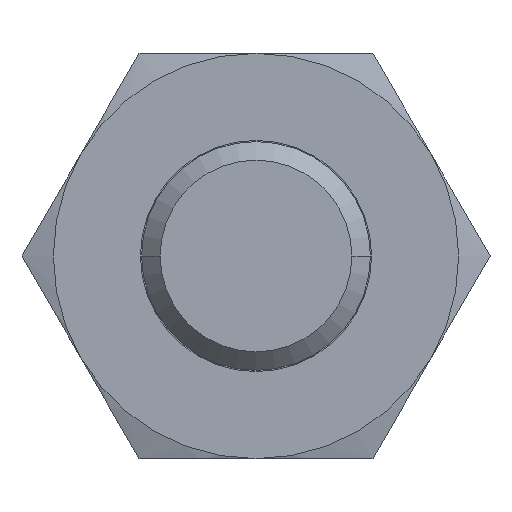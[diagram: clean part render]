
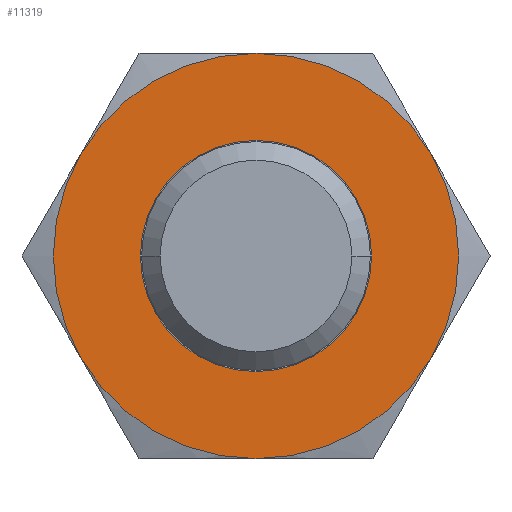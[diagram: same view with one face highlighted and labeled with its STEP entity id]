
A CAD part, left-side view. The second image highlights one B-rep face of the part: STEP entity #11319.
In plain terms, the highlighted free-form (B-spline) face has degree [1, 1] with [2, 2] control points.
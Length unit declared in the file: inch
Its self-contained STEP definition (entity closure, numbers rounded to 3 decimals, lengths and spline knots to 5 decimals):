
#3436=CARTESIAN_POINT('',(-0.2475,0.0,-0.4375));
#3437=VERTEX_POINT('',#3436);
#3471=CARTESIAN_POINT('',(-0.2475,0.,0.4375));
#3472=VERTEX_POINT('',#3471);
#3479=CARTESIAN_POINT('',(-0.2475,0.0,0.0));
#3480=DIRECTION('',(-1.0,0.0,0.0));
#3481=DIRECTION('',(0.0,0.0,-1.0));
#3482=AXIS2_PLACEMENT_3D('',#3479,#3480,#3481);
#3483=CIRCLE('',#3482,0.4375);
#3484=EDGE_CURVE('',#3437,#3472,#3483,.T.);
#3916=CARTESIAN_POINT('',(-0.2475,0.2495,0.0));
#3917=VERTEX_POINT('',#3916);
#3926=CARTESIAN_POINT('',(-0.2475,-0.2495,0.));
#3927=VERTEX_POINT('',#3926);
#3928=CARTESIAN_POINT('',(-0.2475,0.0,0.0));
#3929=DIRECTION('',(-1.0,0.0,0.0));
#3930=DIRECTION('',(0.0,1.0,0.0));
#3931=AXIS2_PLACEMENT_3D('',#3928,#3929,#3930);
#3932=CIRCLE('',#3931,0.2495);
#3933=EDGE_CURVE('',#3917,#3927,#3932,.T.);
#10047=CARTESIAN_POINT('',(-0.2475,0.0,0.0));
#10048=DIRECTION('',(-1.0,0.0,0.0));
#10049=DIRECTION('',(0.0,1.0,0.0));
#10050=AXIS2_PLACEMENT_3D('',#10047,#10048,#10049);
#10051=CIRCLE('',#10050,0.2495);
#10052=EDGE_CURVE('',#3927,#3917,#10051,.T.);
#11292=CARTESIAN_POINT('',(-0.2475,0.0,0.0));
#11293=DIRECTION('',(-1.0,0.0,0.0));
#11294=DIRECTION('',(0.0,0.0,-1.0));
#11295=AXIS2_PLACEMENT_3D('',#11292,#11293,#11294);
#11296=CIRCLE('',#11295,0.4375);
#11297=EDGE_CURVE('',#3472,#3437,#11296,.T.);
#11306=CARTESIAN_POINT('',(-0.2475,0.4375,0.4375));
#11307=CARTESIAN_POINT('',(-0.2475,0.4375,-0.4375));
#11308=CARTESIAN_POINT('',(-0.2475,-0.4375,0.4375));
#11309=CARTESIAN_POINT('',(-0.2475,-0.4375,-0.4375));
#11310=B_SPLINE_SURFACE_WITH_KNOTS('',1,1,((#11306,#11308),(#11307,#11309)),.UNSPECIFIED.,.F.,.F.,.U.,(2,2),(2,2),(0.0,0.875),(0.0,0.875),.UNSPECIFIED.);
#11311=ORIENTED_EDGE('',*,*,#3484,.T.);
#11312=ORIENTED_EDGE('',*,*,#11297,.T.);
#11313=EDGE_LOOP('',(#11311,#11312));
#11314=FACE_OUTER_BOUND('',#11313,.T.);
#11315=ORIENTED_EDGE('',*,*,#3933,.F.);
#11316=ORIENTED_EDGE('',*,*,#10052,.F.);
#11317=EDGE_LOOP('',(#11315,#11316));
#11318=FACE_BOUND('',#11317,.T.);
#11319=ADVANCED_FACE('',(#11314,#11318),#11310,.T.);
